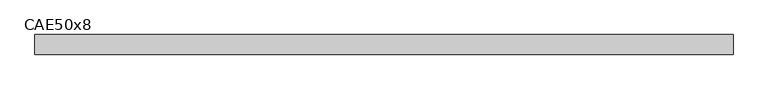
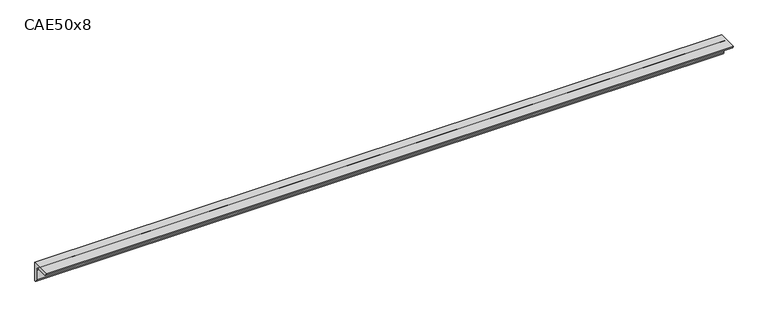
"""IFC4 building model written with IfcOpenShell, lengths in millimetres: beam geometry, L-Cornières : CAE50x8."""

import ifcopenshell
import ifcopenshell.guid

model = None  # the IFC model being written
_history = None  # IfcOwnerHistory: only IFC2X3 demands one
_inside = {}  # id of a spatial element -> (the spatial element, [elements in it])
_under = {}  # id of a project, library or spatial element -> (it, [spatial elements below it])
_declared = {}  # id of a project -> (the project, [libraries it declares])
_typed = {}  # id of a type object -> (the type object, [elements of that type])
_made_of = {}  # id of a material, layer set ... -> (it, [elements and type objects made of it])


def new_model(schema):
    """Start an empty IFC model of exactly this schema.

    Asked for "IFC4X3", IfcOpenShell would pick the latest addendum, in which some entities
    have other attributes; the version numbers below select the first issue.
    IFC2X3 requires an IfcOwnerHistory on every rooted entity: one is made here for all.
    """
    global model, _history
    if schema == "IFC4X3":
        model = ifcopenshell.file(schema_version=(4, 3, 0, 0))
    else:
        model = ifcopenshell.file(schema=schema)
    _inside.clear()
    _under.clear()
    _declared.clear()
    _typed.clear()
    _made_of.clear()
    _history = None
    if model.schema == "IFC2X3":
        org = make("IfcOrganization", Name="unknown")
        user = make(
            "IfcPersonAndOrganization",
            ThePerson=make("IfcPerson", FamilyName="unknown"),
            TheOrganization=org,
        )
        app = make(
            "IfcApplication",
            ApplicationDeveloper=org,
            Version="unknown",
            ApplicationFullName="unknown",
            ApplicationIdentifier="unknown",
        )
        _history = make(
            "IfcOwnerHistory",
            OwningUser=user,
            OwningApplication=app,
            ChangeAction="ADDED",
            CreationDate=0,
        )
    return model


def make(cls, **values):
    """One entity of the class cls with the attributes given. An attribute that is None is left unset."""
    return model.create_entity(
        cls, **{name: value for name, value in values.items() if value is not None}
    )


def rooted(cls, **values):
    """An entity with a GlobalId (a new one), such as an element, a storey or a relation."""
    return make(cls, GlobalId=ifcopenshell.guid.new(), OwnerHistory=_history, **values)


def si_unit(unit_type, name, prefix=None):
    """IfcSIUnit, for example si_unit("LENGTHUNIT", "METRE", prefix="MILLI")."""
    return make("IfcSIUnit", UnitType=unit_type, Prefix=prefix, Name=name)


def assignment(units):
    """IfcUnitAssignment: the units of a project."""
    return None if units is None else make("IfcUnitAssignment", Units=units)


def point(xyz):
    """IfcCartesianPoint."""
    return None if xyz is None else make("IfcCartesianPoint", Coordinates=xyz)


def direction(xyz):
    """IfcDirection."""
    return None if xyz is None else make("IfcDirection", DirectionRatios=xyz)


def frame(location, z_axis=None, x_axis=None):
    """IfcAxis2Placement3D, a coordinate frame: its origin and axes. An axis left out is left unset."""
    return make(
        "IfcAxis2Placement3D",
        Location=point(location),
        Axis=direction(z_axis),
        RefDirection=direction(x_axis),
    )


def frame_2d(location, x_axis=None):
    """IfcAxis2Placement2D, a coordinate frame in the plane: its origin and x axis."""
    return make(
        "IfcAxis2Placement2D", Location=point(location), RefDirection=direction(x_axis)
    )


def origin():
    """The frame at (0, 0, 0) with its axes left unset."""
    return frame((0.0, 0.0, 0.0))


def place(relative_to, where):
    """IfcLocalPlacement: puts the frame where relative to a parent placement (None: the world)."""
    return make(
        "IfcLocalPlacement", PlacementRelTo=relative_to, RelativePlacement=where
    )


def context(
    kind, dimensions, precision=None, world=None, true_north=None, identifier=None
):
    """IfcGeometricRepresentationContext, for example the 3D "Model" context."""
    return make(
        "IfcGeometricRepresentationContext",
        ContextIdentifier=identifier,
        ContextType=kind,
        CoordinateSpaceDimension=dimensions,
        Precision=precision,
        WorldCoordinateSystem=world,
        TrueNorth=true_north,
    )


def project(units=None, contexts=None):
    """IfcProject with its units and contexts."""
    return rooted(
        "IfcProject",
        Name="project",
        RepresentationContexts=contexts,
        UnitsInContext=assignment(units),
    )


def spatial(cls, under=None, at=None, **own):
    """A site, building, storey or space (cls), placed at a placement, below another one or the project."""
    s = rooted(cls, ObjectPlacement=at, **own)
    if under is not None:
        _under.setdefault(under.id(), (under, []))[1].append(s)
    return s


def polyline(points):
    """IfcPolyline through the points."""
    return make("IfcPolyline", Points=[point(p) for p in points])


def circle_curve(where, radius):
    """IfcCircle in the frame where."""
    return make("IfcCircle", Position=where, Radius=radius)


def trimmed(basis, trim1, trim2, sense, master):
    """IfcTrimmedCurve: the piece of a basis curve between two trims."""
    return make(
        "IfcTrimmedCurve",
        BasisCurve=basis,
        Trim1=trim1,
        Trim2=trim2,
        SenseAgreement=sense,
        MasterRepresentation=master,
    )


def segment(curve, same_sense, transition):
    """IfcCompositeCurveSegment."""
    return make(
        "IfcCompositeCurveSegment",
        Transition=transition,
        SameSense=same_sense,
        ParentCurve=curve,
    )


def composite_curve(segments, self_intersect=None):
    """IfcCompositeCurve: segments joined end to end."""
    return make("IfcCompositeCurve", Segments=segments, SelfIntersect=self_intersect)


def outline(outer, holes=None, kind="AREA"):
    """IfcArbitraryClosedProfileDef: a profile drawn as a closed curve; with holes, ...WithVoids."""
    if holes is None:
        return make("IfcArbitraryClosedProfileDef", ProfileType=kind, OuterCurve=outer)
    return make(
        "IfcArbitraryProfileDefWithVoids",
        ProfileType=kind,
        OuterCurve=outer,
        InnerCurves=holes,
    )


def extrude(swept, where, along, depth):
    """IfcExtrudedAreaSolid: the profile swept, set in the frame where, extruded along a direction by depth."""
    return make(
        "IfcExtrudedAreaSolid",
        SweptArea=swept,
        Position=where,
        ExtrudedDirection=direction(along),
        Depth=depth,
    )


def shape(context_of_items, identifier, shape_type, items):
    """IfcShapeRepresentation: the items that make up one representation, for example the "Body"."""
    return make(
        "IfcShapeRepresentation",
        ContextOfItems=context_of_items,
        RepresentationIdentifier=identifier,
        RepresentationType=shape_type,
        Items=items,
    )


def source(mapping_origin, context_of_items, identifier, shape_type, items):
    """IfcRepresentationMap: a shape defined once, which mapped items show again and again."""
    return make(
        "IfcRepresentationMap",
        MappingOrigin=mapping_origin,
        MappedRepresentation=shape(context_of_items, identifier, shape_type, items),
    )


def transform(
    local_origin,
    x_axis=None,
    y_axis=None,
    z_axis=None,
    scale=None,
    scale2=None,
    scale3=None,
    uniform=True,
):
    """IfcCartesianTransformationOperator3D, or its non-uniform kind. x_axis, y_axis, z_axis: its Axis1, 2, 3."""
    if uniform:
        return make(
            "IfcCartesianTransformationOperator3D",
            Axis1=direction(x_axis),
            Axis2=direction(y_axis),
            LocalOrigin=point(local_origin),
            Scale=scale,
            Axis3=direction(z_axis),
        )
    return make(
        "IfcCartesianTransformationOperator3DnonUniform",
        Axis1=direction(x_axis),
        Axis2=direction(y_axis),
        LocalOrigin=point(local_origin),
        Scale=scale,
        Axis3=direction(z_axis),
        Scale2=scale2,
        Scale3=scale3,
    )


def mapped(mapping_source, mapping_target):
    """IfcMappedItem: shows the shape of a source again, moved by a transform."""
    return make(
        "IfcMappedItem", MappingSource=mapping_source, MappingTarget=mapping_target
    )


def made_of(thing, what):
    """Note that an element or type object is made of a material, layer set ...; save() writes the relation."""
    if what is not None:
        _made_of.setdefault(what.id(), (what, []))[1].append(thing)
    return thing


def element(
    cls,
    number,
    at=None,
    inside=None,
    cuts=None,
    type_object=None,
    material=None,
    context=None,
    identifier="Body",
    shape_type=None,
    held_by="IfcProductDefinitionShape",
    body=None,
    shapes=None,
    **own,
):
    """One element of the class cls, such as IfcWall. Its Tag is "e" and its number.

    at: its placement. inside: the storey or other place that contains it. cuts: it is an
    opening in that element (IfcRelVoidsElement). A single representation is given by context,
    identifier, shape_type and body (its items); several are given by shapes. held_by: the class
    of the entity that holds the representations. save() writes the other relations.
    """
    e = rooted(cls, Tag="e%d" % number, ObjectPlacement=at, **own)
    if body is not None:
        shapes = [shape(context, identifier, shape_type, body)]
    if shapes is not None:
        e.Representation = make(held_by, Representations=shapes)
    if inside is not None:
        _inside.setdefault(inside.id(), (inside, []))[1].append(e)
    if cuts is not None:
        rooted(
            "IfcRelVoidsElement", RelatingBuildingElement=cuts, RelatedOpeningElement=e
        )
    if type_object is not None:
        _typed.setdefault(type_object.id(), (type_object, []))[1].append(e)
    return made_of(e, material)


def aggregate(whole, parts):
    """IfcRelAggregates: a whole, such as a stair, and the parts it consists of."""
    return rooted("IfcRelAggregates", RelatingObject=whole, RelatedObjects=parts)


def save(model, path):
    """Write the relations noted so far, then the file.

    IfcRelAggregates (storeys below a building ...), IfcRelContainedInSpatialStructure (elements
    in a storey), IfcRelDefinesByType, IfcRelAssociatesMaterial and IfcRelDeclares: one each for
    every whole, place, type object, material and project.
    """
    for whole, parts in _under.values():
        aggregate(whole, parts)
    for where, things in _inside.values():
        rooted(
            "IfcRelContainedInSpatialStructure",
            RelatedElements=things,
            RelatingStructure=where,
        )
    for kind, things in _typed.values():
        rooted("IfcRelDefinesByType", RelatedObjects=things, RelatingType=kind)
    for what, things in _made_of.values():
        rooted("IfcRelAssociatesMaterial", RelatedObjects=things, RelatingMaterial=what)
    for by, libraries in _declared.values():
        rooted("IfcRelDeclares", RelatingContext=by, RelatedDefinitions=libraries)
    model.write(path)


def cae50x8_187bd9a3(model_context):
    return source(origin(), model_context, "Body", "SweptSolid", [
        extrude(outline(composite_curve([segment(polyline([(15.2, 15.2), (15.2, -34.8)]), True, "CONTINUOUS"), segment(trimmed(circle_curve(frame_2d((15.2, -26.8)), 8.0), [point((15.2, -34.8))], [point((7.2, -26.8))], False, "CARTESIAN"), True, "CONTINUOUS"), segment(polyline([(7.2, -26.8), (7.2, -0.8)]), True, "CONTINUOUS"), segment(trimmed(circle_curve(frame_2d((-0.8, -0.8)), 8.0), [point((7.2, -0.8))], [point((-0.8, 7.2))], True, "CARTESIAN"), True, "CONTINUOUS"), segment(polyline([(-0.8, 7.2), (-26.8, 7.2)]), True, "CONTINUOUS"), segment(trimmed(circle_curve(frame_2d((-26.8, 15.2)), 8.0), [point((-26.8, 7.2))], [point((-34.8, 15.2))], False, "CARTESIAN"), True, "CONTINUOUS"), segment(polyline([(-34.8, 15.2), (15.2, 15.2)]), True, "CONTINUOUS")], self_intersect=False)), frame((-757.5, 0.0, 0.0), z_axis=(1.0, 0.0, 0.0), x_axis=(0.0, 1.0, 0.0)), (0.0, 0.0, 1.0), 1775.0),
    ])


if __name__ == "__main__":
    model = new_model("IFC4")
    model_context = context("Model", 3, world=origin())
    ifc_project = project(units=[si_unit("LENGTHUNIT", "METRE", prefix="MILLI")], contexts=[model_context])
    site = spatial("IfcSite", under=ifc_project)
    building = spatial("IfcBuilding", under=site)
    placement = place(None, origin())
    cae50x8_shape = cae50x8_187bd9a3(model_context)
    element("IfcBeam", 1, ObjectType="L-Cornières : CAE50x8", at=placement, inside=building, context=model_context, shape_type="MappedRepresentation", body=[
        mapped(cae50x8_shape, transform((0.0, 0.0, 0.0), x_axis=(1.0, 0.0, 0.0), y_axis=(0.0, 1.0, 0.0), z_axis=(0.0, 0.0, 1.0))),
    ])
    save(model, "model.ifc")
